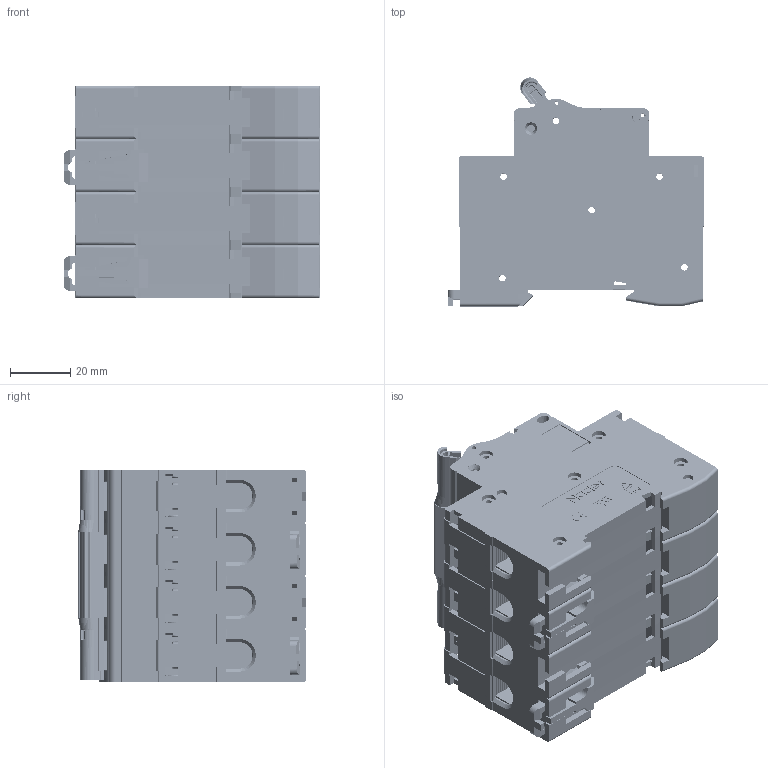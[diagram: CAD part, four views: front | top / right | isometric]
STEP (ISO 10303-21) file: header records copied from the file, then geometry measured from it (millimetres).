
FILE_DESCRIPTION (( 'STEP AP214' ), '1' );
FILE_NAME ('4p.STEP', '2021-09-02T11:13:06', ( '' ), ( '' ), 'SwSTEP 2.0', 'SolidWorks 2018', '' );
FILE_SCHEMA (( 'AUTOMOTIVE_DESIGN' ));
Length unit declared in the file: millimetre
Products named in the file (13): 8LD.516.163; 8LD.039.100; 8LD.516.164; 8LD.143.115; 8LD.315.141; 4p; 8LD.315.140; 8LD.253.173; 8LD.907.115; 8LD.516.135; 8LD.024.137; 8LD.253.129; 5LD.574.103
Assembly tree (39 placements, depth 3):
  4p
    8LD.024.137  x4
    8LD.253.129  x4
    5LD.574.103  x8
      8LD.516.135
      8LD.907.115
    8LD.315.140  x4
    8LD.143.115  x2
    8LD.253.173
    8LD.315.141  x2
    8LD.039.100  x4
    8LD.516.163  x4
    8LD.516.164  x4
Bounding box: 85.1 x 75.91 x 70.56 mm (x, y, z)
Volume: 309768.7 mm3; surface area: 193392.6 mm2
Topology: 57 solids, 89 shells, 13615 faces, 38203 edges, 25066 vertices
Faces by surface type: plane 7918, cylinder 4024, cone 948, bspline 617, torus 76, sphere 32
Entity records: 120257 total; most frequent: CARTESIAN_POINT 34538, ORIENTED_EDGE 18814, DIRECTION 16255, EDGE_CURVE 9407, VECTOR 6231, LINE 6231, VERTEX_POINT 6183, AXIS2_PLACEMENT_3D 5012
